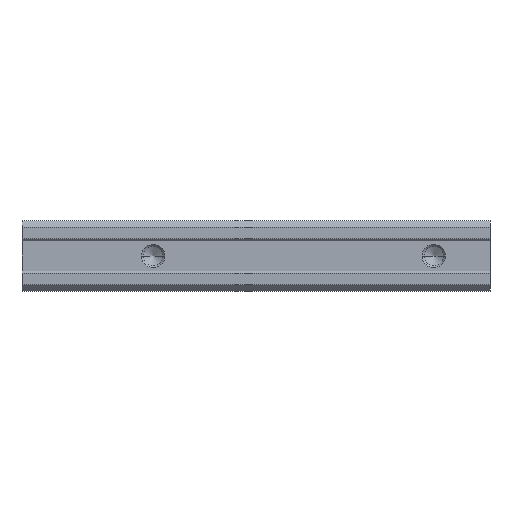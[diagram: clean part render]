
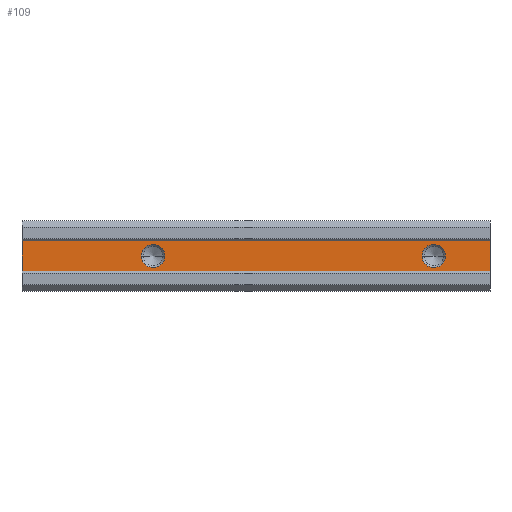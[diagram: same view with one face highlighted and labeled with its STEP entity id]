
A CAD part, front view. The second image highlights one B-rep face of the part: STEP entity #109.
In plain terms, the highlighted planar face has unit normal (0, -1, 0).
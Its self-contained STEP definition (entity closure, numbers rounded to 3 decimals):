
#109 = ADVANCED_FACE( '', ( #184, #185, #186 ), #187, .T. );
#184 = FACE_BOUND( '', #266, .T. );
#185 = FACE_BOUND( '', #267, .T. );
#186 = FACE_OUTER_BOUND( '', #268, .T. );
#187 = PLANE( '', #269 );
#266 = EDGE_LOOP( '', ( #514, #515 ) );
#267 = EDGE_LOOP( '', ( #516, #517 ) );
#268 = EDGE_LOOP( '', ( #518, #519, #520, #521 ) );
#269 = AXIS2_PLACEMENT_3D( '', #522, #523, #524 );
#514 = ORIENTED_EDGE( '', *, *, #623, .T. );
#515 = ORIENTED_EDGE( '', *, *, #624, .T. );
#516 = ORIENTED_EDGE( '', *, *, #617, .T. );
#517 = ORIENTED_EDGE( '', *, *, #626, .T. );
#518 = ORIENTED_EDGE( '', *, *, #695, .T. );
#519 = ORIENTED_EDGE( '', *, *, #696, .F. );
#520 = ORIENTED_EDGE( '', *, *, #697, .T. );
#521 = ORIENTED_EDGE( '', *, *, #693, .T. );
#522 = CARTESIAN_POINT( '', ( 0., 0.4, -3.25 ) );
#523 = DIRECTION( '', ( 0., -1., 0. ) );
#524 = DIRECTION( '', ( 0., 0., -1. ) );
#617 = EDGE_CURVE( '', #726, #728, #730, .T. );
#623 = EDGE_CURVE( '', #735, #737, #739, .T. );
#624 = EDGE_CURVE( '', #737, #735, #740, .T. );
#626 = EDGE_CURVE( '', #728, #726, #742, .T. );
#693 = EDGE_CURVE( '', #854, #852, #855, .T. );
#695 = EDGE_CURVE( '', #852, #857, #858, .T. );
#696 = EDGE_CURVE( '', #859, #857, #860, .T. );
#697 = EDGE_CURVE( '', #859, #854, #861, .T. );
#726 = VERTEX_POINT( '', #900 );
#728 = VERTEX_POINT( '', #903 );
#730 = CIRCLE( '', #906, 2.5 );
#735 = VERTEX_POINT( '', #913 );
#737 = VERTEX_POINT( '', #916 );
#739 = CIRCLE( '', #919, 2.5 );
#740 = CIRCLE( '', #920, 2.5 );
#742 = CIRCLE( '', #922, 2.5 );
#852 = VERTEX_POINT( '', #1092 );
#854 = VERTEX_POINT( '', #1095 );
#855 = LINE( '', #1096, #1097 );
#857 = VERTEX_POINT( '', #1100 );
#858 = LINE( '', #1101, #1102 );
#859 = VERTEX_POINT( '', #1103 );
#860 = LINE( '', #1104, #1105 );
#861 = LINE( '', #1106, #1107 );
#900 = CARTESIAN_POINT( '', ( 90.5, 0.4, 0. ) );
#903 = CARTESIAN_POINT( '', ( 85.5, 0.4, 0. ) );
#906 = AXIS2_PLACEMENT_3D( '', #1151, #1152, #1153 );
#913 = CARTESIAN_POINT( '', ( 30.5, 0.4, 0. ) );
#916 = CARTESIAN_POINT( '', ( 25.5, 0.4, 0. ) );
#919 = AXIS2_PLACEMENT_3D( '', #1161, #1162, #1163 );
#920 = AXIS2_PLACEMENT_3D( '', #1164, #1165, #1166 );
#922 = AXIS2_PLACEMENT_3D( '', #1170, #1171, #1172 );
#1092 = CARTESIAN_POINT( '', ( 100., 0.4, -3.25 ) );
#1095 = CARTESIAN_POINT( '', ( 0., 0.4, -3.25 ) );
#1096 = CARTESIAN_POINT( '', ( 0., 0.4, -3.25 ) );
#1097 = VECTOR( '', #1249, 1. );
#1100 = CARTESIAN_POINT( '', ( 100., 0.4, 3.25 ) );
#1101 = CARTESIAN_POINT( '', ( 100., 0.4, 3.25 ) );
#1102 = VECTOR( '', #1251, 1. );
#1103 = CARTESIAN_POINT( '', ( 0., 0.4, 3.25 ) );
#1104 = CARTESIAN_POINT( '', ( 0., 0.4, 3.25 ) );
#1105 = VECTOR( '', #1252, 1. );
#1106 = CARTESIAN_POINT( '', ( 0., 0.4, 3.25 ) );
#1107 = VECTOR( '', #1253, 1. );
#1151 = CARTESIAN_POINT( '', ( 88., 0.4, 0. ) );
#1152 = DIRECTION( '', ( 0., 1., 0. ) );
#1153 = DIRECTION( '', ( 1., 0., 0. ) );
#1161 = CARTESIAN_POINT( '', ( 28., 0.4, 0. ) );
#1162 = DIRECTION( '', ( 0., 1., 0. ) );
#1163 = DIRECTION( '', ( 1., 0., 0. ) );
#1164 = CARTESIAN_POINT( '', ( 28., 0.4, 0. ) );
#1165 = DIRECTION( '', ( 0., 1., 0. ) );
#1166 = DIRECTION( '', ( 1., 0., 0. ) );
#1170 = CARTESIAN_POINT( '', ( 88., 0.4, 0. ) );
#1171 = DIRECTION( '', ( 0., 1., 0. ) );
#1172 = DIRECTION( '', ( 1., 0., 0. ) );
#1249 = DIRECTION( '', ( 1., 0., 0. ) );
#1251 = DIRECTION( '', ( 0., 0., 1. ) );
#1252 = DIRECTION( '', ( 1., 0., 0. ) );
#1253 = DIRECTION( '', ( 0., 0., -1. ) );
